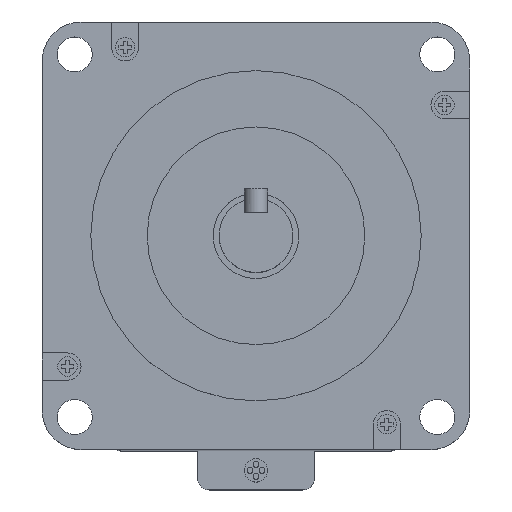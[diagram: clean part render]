
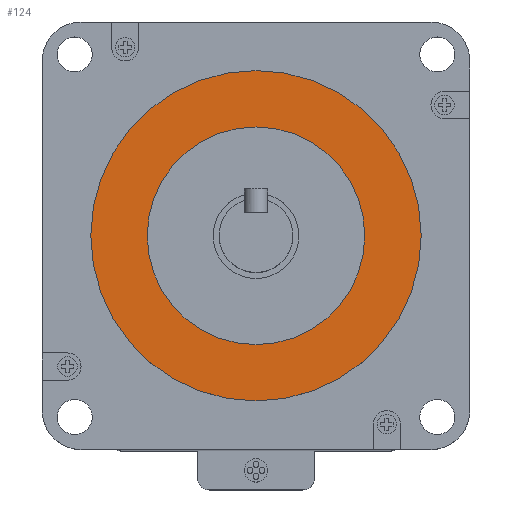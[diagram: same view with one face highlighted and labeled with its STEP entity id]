
A CAD part, top view. The second image highlights one B-rep face of the part: STEP entity #124.
In plain terms, the highlighted planar face has unit normal (0, 0, 1).
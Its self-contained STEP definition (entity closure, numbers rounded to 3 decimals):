
#124 = ADVANCED_FACE ( 'NONE', ( #9183, #3127 ), #3360, .F. ) ;
#371 = VERTEX_POINT ( 'NONE', #6813 ) ;
#430 = AXIS2_PLACEMENT_3D ( 'NONE', #3117, #8382, #5401 ) ;
#483 = CARTESIAN_POINT ( 'NONE',  ( 28., 0., 3.5 ) ) ;
#769 = CARTESIAN_POINT ( 'NONE',  ( 0., 0., 3.5 ) ) ;
#858 = ORIENTED_EDGE ( 'NONE', *, *, #2566, .F. ) ;
#1577 = DIRECTION ( 'NONE',  ( -1., 0., 0. ) ) ;
#1629 = AXIS2_PLACEMENT_3D ( 'NONE', #1840, #3336, #7075 ) ;
#1741 = CIRCLE ( 'NONE', #430, 42.5 ) ;
#1770 = ORIENTED_EDGE ( 'NONE', *, *, #2766, .F. ) ;
#1840 = CARTESIAN_POINT ( 'NONE',  ( 0., 0., 3.5 ) ) ;
#1847 = EDGE_CURVE ( 'NONE', #371, #3767, #1741, .T. ) ;
#2034 = EDGE_LOOP ( 'NONE', ( #858, #3290 ) ) ;
#2566 = EDGE_CURVE ( 'NONE', #8114, #3675, #2589, .T. ) ;
#2589 = CIRCLE ( 'NONE', #3388, 28. ) ;
#2766 = EDGE_CURVE ( 'NONE', #3767, #371, #9621, .T. ) ;
#3117 = CARTESIAN_POINT ( 'NONE',  ( 0., 0., 3.5 ) ) ;
#3127 = FACE_OUTER_BOUND ( 'NONE', #9132, .T. ) ;
#3219 = DIRECTION ( 'NONE',  ( -1., 0., 0. ) ) ;
#3290 = ORIENTED_EDGE ( 'NONE', *, *, #6106, .F. ) ;
#3336 = DIRECTION ( 'NONE',  ( 0., 0., -1. ) ) ;
#3360 = PLANE ( 'NONE',  #1629 ) ;
#3388 = AXIS2_PLACEMENT_3D ( 'NONE', #769, #7600, #1577 ) ;
#3675 = VERTEX_POINT ( 'NONE', #483 ) ;
#3767 = VERTEX_POINT ( 'NONE', #4333 ) ;
#4296 = DIRECTION ( 'NONE',  ( -1., 0., 0. ) ) ;
#4333 = CARTESIAN_POINT ( 'NONE',  ( -42.5, 0., 3.5 ) ) ;
#5401 = DIRECTION ( 'NONE',  ( -1., 0., 0. ) ) ;
#5513 = DIRECTION ( 'NONE',  ( 0., 0., -1. ) ) ;
#6058 = ORIENTED_EDGE ( 'NONE', *, *, #1847, .F. ) ;
#6106 = EDGE_CURVE ( 'NONE', #3675, #8114, #7687, .T. ) ;
#6548 = DIRECTION ( 'NONE',  ( 0., 0., 1. ) ) ;
#6813 = CARTESIAN_POINT ( 'NONE',  ( 42.5, 0., 3.5 ) ) ;
#6987 = CARTESIAN_POINT ( 'NONE',  ( 0., 0., 3.5 ) ) ;
#7066 = AXIS2_PLACEMENT_3D ( 'NONE', #8780, #6548, #4296 ) ;
#7075 = DIRECTION ( 'NONE',  ( -1., 0., 0. ) ) ;
#7600 = DIRECTION ( 'NONE',  ( 0., 0., 1. ) ) ;
#7687 = CIRCLE ( 'NONE', #7066, 28. ) ;
#8114 = VERTEX_POINT ( 'NONE', #8787 ) ;
#8382 = DIRECTION ( 'NONE',  ( 0., 0., -1. ) ) ;
#8780 = CARTESIAN_POINT ( 'NONE',  ( 0., 0., 3.5 ) ) ;
#8787 = CARTESIAN_POINT ( 'NONE',  ( -28., 0., 3.5 ) ) ;
#9132 = EDGE_LOOP ( 'NONE', ( #1770, #6058 ) ) ;
#9183 = FACE_BOUND ( 'NONE', #2034, .T. ) ;
#9587 = AXIS2_PLACEMENT_3D ( 'NONE', #6987, #5513, #3219 ) ;
#9621 = CIRCLE ( 'NONE', #9587, 42.5 ) ;
